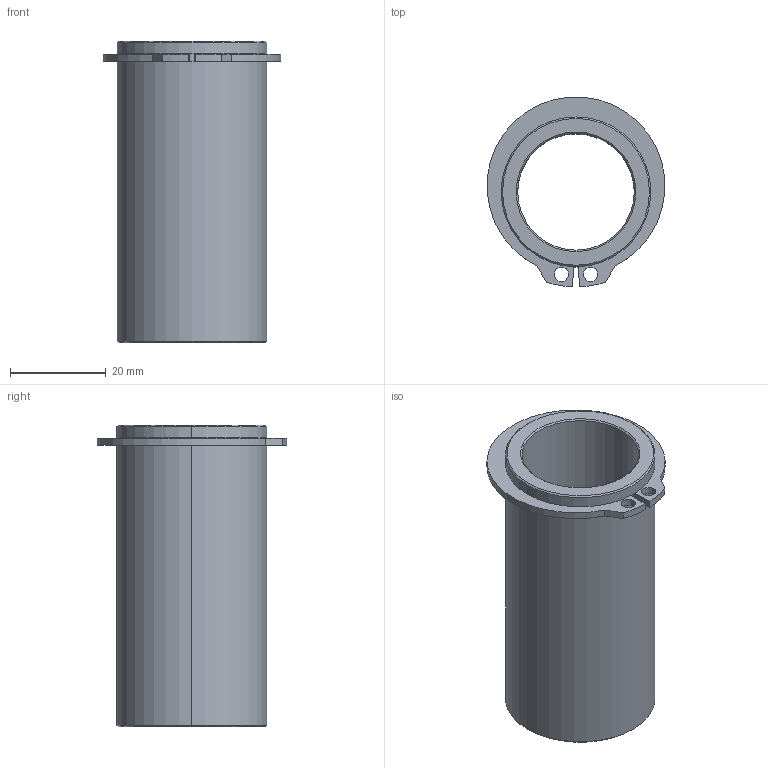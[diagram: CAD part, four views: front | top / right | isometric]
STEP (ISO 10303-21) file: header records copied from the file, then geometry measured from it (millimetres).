
FILE_DESCRIPTION((''),'2;1');
FILE_NAME('C13_024_063.stp','2008-12-17T14:55:32',(''),(''),'Mechanical Desktop 2009','Mechanical Desktop 2009',', , ');
FILE_SCHEMA(('CONFIG_CONTROL_DESIGN'));
Length unit declared in the file: millimetre
Products named in the file (2): Product; blmdl1
Assembly tree (1 placements, depth 2):
  Product
    blmdl1
Bounding box: 37.06 x 39.59 x 63 mm (x, y, z)
Volume: 19465.2 mm3; surface area: 12777.5 mm2
Topology: 2 solids, 2 shells, 34 faces, 76 edges, 48 vertices
Faces by surface type: cylinder 16, plane 10, cone 8
Entity records: 1075 total; most frequent: DIRECTION 188, CARTESIAN_POINT 160, ORIENTED_EDGE 152, AXIS2_PLACEMENT_3D 76, EDGE_CURVE 76, VERTEX_POINT 48, EDGE_LOOP 42, CIRCLE 40
